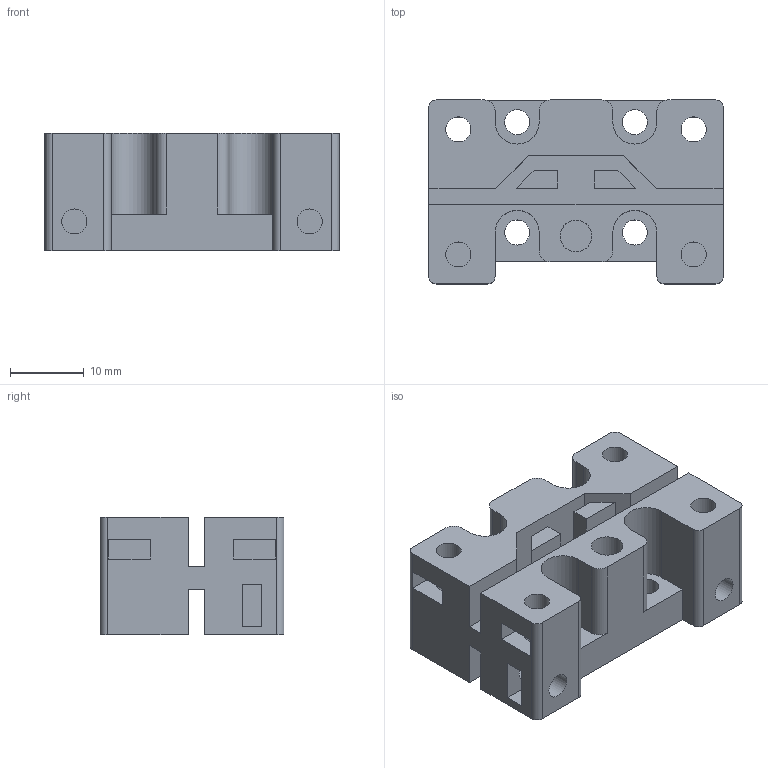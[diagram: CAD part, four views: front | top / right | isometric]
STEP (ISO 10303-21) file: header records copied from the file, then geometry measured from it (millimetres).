
FILE_DESCRIPTION(('Open CASCADE Model'),'2;1');
FILE_NAME('BeltClamp','2026-06-25T14:49:35',('Author'),('Open CASCADE'), 'Open CASCADE STEP processor 7.8','build123d','Unknown');
FILE_SCHEMA(('AUTOMOTIVE_DESIGN { 1 0 10303 214 1 1 1 1 }'));
Length unit declared in the file: millimetre
Products named in the file (1): BeltClamp
Bounding box: 40 x 25 x 16 mm (x, y, z)
Volume: 9947.4 mm3; surface area: 7309.4 mm2
Topology: 1 solids, 1 shells, 124 faces, 321 edges, 214 vertices
Faces by surface type: plane 91, cylinder 33
Full cylindrical faces by diameter (mm): 3.4 x16, 4.3 x1
Entity records: 8083 total; most frequent: CARTESIAN_POINT 1518, DIRECTION 1228, LINE 813, VECTOR 813, ORIENTED_EDGE 642, PCURVE 642, DEFINITIONAL_REPRESENTATION 642, EDGE_CURVE 321
